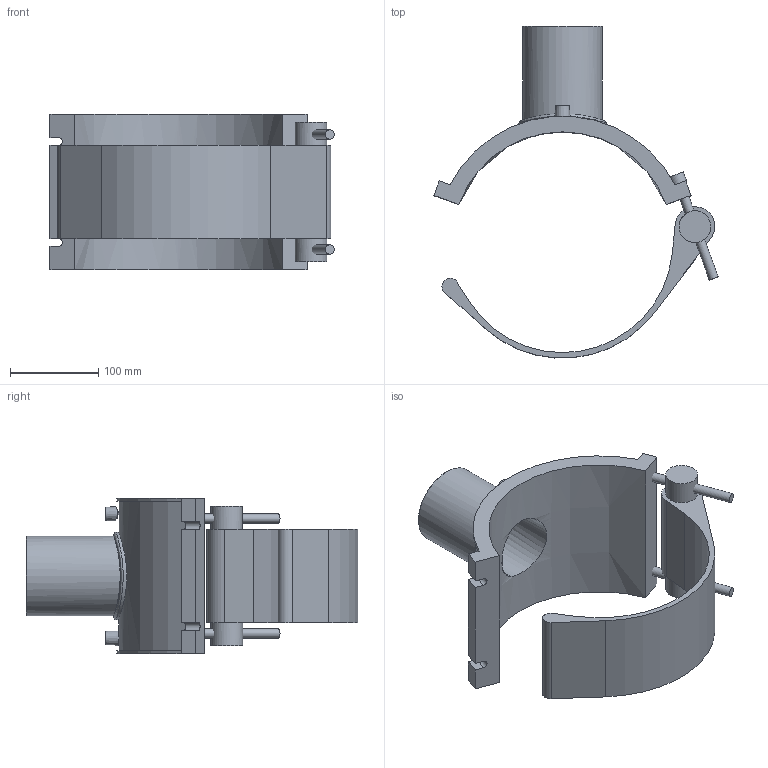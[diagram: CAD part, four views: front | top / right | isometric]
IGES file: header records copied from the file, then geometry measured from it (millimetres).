
Global section: file name: 495804250090.ipt; native system: Autodesk Inventor 2015; preprocessor: unknown; author: KIM; date: 20180426.120912; units: millimetre
Bounding box: 321.9 x 375.94 x 176 mm (x, y, z)
Volume: 1772450.7 mm3; surface area: 315055 mm2
Topology: 5 solids, 5 shells, 65 faces, 135 edges, 91 vertices
Faces by surface type: plane 37, cylinder 17, revolution 7, cone 3, bspline 1
Full cylindrical faces by diameter (mm): 4 x2, 10.5 x2, 17.5 x2, 36 x2, 90 x1, 99 x1
